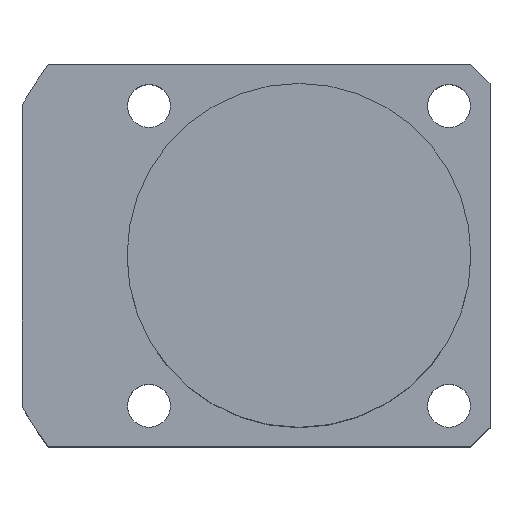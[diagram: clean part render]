
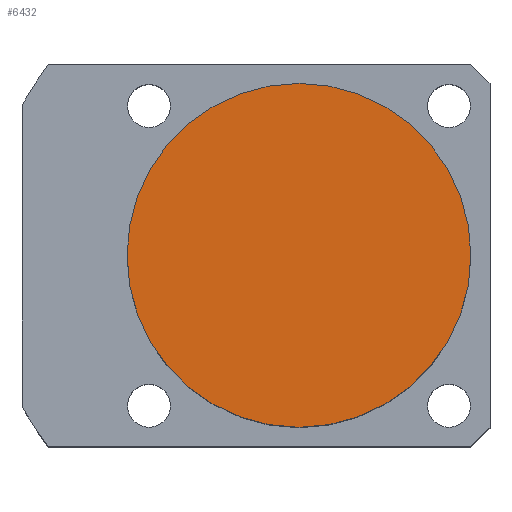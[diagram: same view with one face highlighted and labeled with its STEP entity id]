
A CAD part, top view. The second image highlights one B-rep face of the part: STEP entity #6432.
In plain terms, the highlighted planar face has unit normal (0, 0, 1).
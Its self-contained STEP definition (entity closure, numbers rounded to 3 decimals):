
#6376=CARTESIAN_POINT('',(0.0,-18.0,38.5));
#6377=VERTEX_POINT('',#6376);
#6384=CARTESIAN_POINT('',(-0.0,18.0,38.5));
#6385=VERTEX_POINT('',#6384);
#6386=CARTESIAN_POINT('',(0.0,0.0,38.5));
#6387=DIRECTION('',(0.0,0.0,1.0));
#6388=DIRECTION('',(1.0,0.0,0.0));
#6389=AXIS2_PLACEMENT_3D('',#6386,#6387,#6388);
#6390=CIRCLE('',#6389,18.0);
#6391=EDGE_CURVE('no 3783',#6385,#6377,#6390,.T.);
#6408=CARTESIAN_POINT('',(18.0,0.0,38.5));
#6409=VERTEX_POINT('',#6408);
#6410=CARTESIAN_POINT('',(0.0,0.0,38.5));
#6411=DIRECTION('',(0.0,0.0,1.0));
#6412=DIRECTION('',(1.0,0.0,0.0));
#6413=AXIS2_PLACEMENT_3D('',#6410,#6411,#6412);
#6414=CIRCLE('',#6413,18.0);
#6415=EDGE_CURVE('no 3798',#6409,#6385,#6414,.T.);
#6416=ORIENTED_EDGE('',*,*,#6415,.T.);
#6417=ORIENTED_EDGE('',*,*,#6391,.T.);
#6418=CARTESIAN_POINT('',(0.0,0.0,38.5));
#6419=DIRECTION('',(0.0,0.0,1.0));
#6420=DIRECTION('',(1.0,0.0,0.0));
#6421=AXIS2_PLACEMENT_3D('',#6418,#6419,#6420);
#6422=CIRCLE('',#6421,18.0);
#6423=EDGE_CURVE('no 3804',#6377,#6409,#6422,.T.);
#6424=ORIENTED_EDGE('',*,*,#6423,.T.);
#6425=EDGE_LOOP('',(#6416,#6417,#6424));
#6426=FACE_OUTER_BOUND('',#6425,.T.);
#6427=CARTESIAN_POINT('',(0.0,0.0,38.5));
#6428=DIRECTION('',(0.0,0.0,1.0));
#6429=DIRECTION('',(1.0,0.0,0.0));
#6430=AXIS2_PLACEMENT_3D('',#6427,#6428,#6429);
#6431=PLANE('',#6430);
#6432=ADVANCED_FACE('no 3791',(#6426),#6431,.T.);
